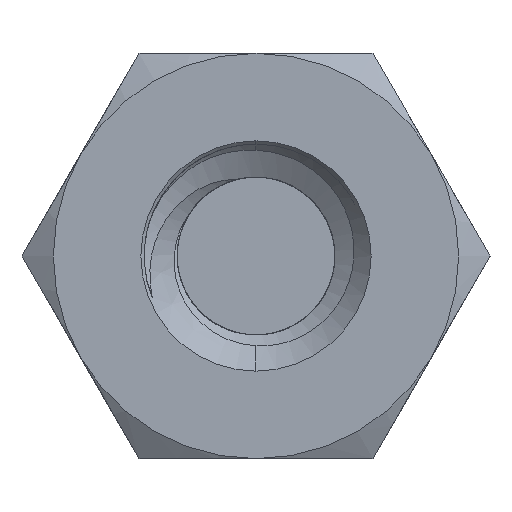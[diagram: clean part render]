
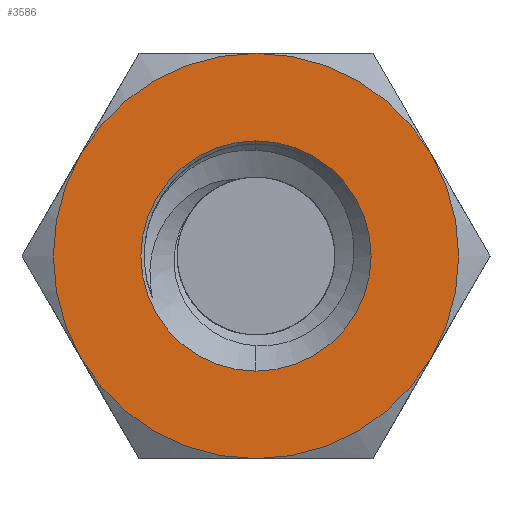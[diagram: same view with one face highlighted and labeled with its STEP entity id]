
A CAD part, left-side view. The second image highlights one B-rep face of the part: STEP entity #3586.
In plain terms, the highlighted planar face has unit normal (-1, 0, 0).
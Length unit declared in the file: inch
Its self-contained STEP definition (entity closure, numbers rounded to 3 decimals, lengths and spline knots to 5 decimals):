
#41 = CIRCLE ( 'NONE', #1318, 0.071 ) ;
#57 = CARTESIAN_POINT ( 'NONE',  ( -1.375, 0.14434, 0. ) ) ;
#78 = PLANE ( 'NONE',  #2468 ) ;
#207 = CARTESIAN_POINT ( 'NONE',  ( -1.375, 0., 0.071 ) ) ;
#248 = CARTESIAN_POINT ( 'NONE',  ( -1.375, 0.10825, 0.0625 ) ) ;
#355 = FACE_BOUND ( 'NONE', #1576, .T. ) ;
#409 = AXIS2_PLACEMENT_3D ( 'NONE', #4730, #5108, #3023 ) ;
#527 = VERTEX_POINT ( 'NONE', #3544 ) ;
#604 = EDGE_CURVE ( 'NONE', #786, #4491, #2111, .T. ) ;
#737 = ORIENTED_EDGE ( 'NONE', *, *, #3399, .F. ) ;
#758 = CARTESIAN_POINT ( 'NONE',  ( -1.375, 0., 0. ) ) ;
#786 = VERTEX_POINT ( 'NONE', #3312 ) ;
#833 = DIRECTION ( 'NONE',  ( 0., 0., -1. ) ) ;
#879 = DIRECTION ( 'NONE',  ( 1., 0., 0. ) ) ;
#1068 = DIRECTION ( 'NONE',  ( 1., 0., 0. ) ) ;
#1193 = CARTESIAN_POINT ( 'NONE',  ( -1.375, 0., 0. ) ) ;
#1239 = CARTESIAN_POINT ( 'NONE',  ( -1.375, 0., -0.125 ) ) ;
#1241 = ORIENTED_EDGE ( 'NONE', *, *, #4875, .T. ) ;
#1281 = DIRECTION ( 'NONE',  ( 1., 0., 0. ) ) ;
#1318 = AXIS2_PLACEMENT_3D ( 'NONE', #4378, #1923, #4018 ) ;
#1481 = CARTESIAN_POINT ( 'NONE',  ( -1.375, -0.10825, 0.0625 ) ) ;
#1574 = ORIENTED_EDGE ( 'NONE', *, *, #5350, .F. ) ;
#1576 = EDGE_LOOP ( 'NONE', ( #4046, #1640 ) ) ;
#1587 = DIRECTION ( 'NONE',  ( -1., 0., 0. ) ) ;
#1639 = EDGE_CURVE ( 'NONE', #1718, #527, #2988, .T. ) ;
#1640 = ORIENTED_EDGE ( 'NONE', *, *, #604, .F. ) ;
#1704 = VERTEX_POINT ( 'NONE', #248 ) ;
#1718 = VERTEX_POINT ( 'NONE', #1481 ) ;
#1725 = CIRCLE ( 'NONE', #3593, 0.125 ) ;
#1846 = VERTEX_POINT ( 'NONE', #1239 ) ;
#1890 = AXIS2_PLACEMENT_3D ( 'NONE', #758, #2497, #4498 ) ;
#1923 = DIRECTION ( 'NONE',  ( -1., 0., 0. ) ) ;
#1952 = CARTESIAN_POINT ( 'NONE',  ( -1.375, 0., 0. ) ) ;
#1969 = DIRECTION ( 'NONE',  ( 0., 0., 1. ) ) ;
#2111 = CIRCLE ( 'NONE', #2784, 0.071 ) ;
#2158 = EDGE_CURVE ( 'NONE', #527, #1846, #4746, .T. ) ;
#2324 = FACE_OUTER_BOUND ( 'NONE', #3734, .T. ) ;
#2327 = DIRECTION ( 'NONE',  ( 1., 0., 0. ) ) ;
#2414 = DIRECTION ( 'NONE',  ( 0., 0., 1. ) ) ;
#2468 = AXIS2_PLACEMENT_3D ( 'NONE', #57, #1281, #833 ) ;
#2497 = DIRECTION ( 'NONE',  ( 1., 0., 0. ) ) ;
#2534 = CARTESIAN_POINT ( 'NONE',  ( -1.375, 0., 0. ) ) ;
#2545 = EDGE_CURVE ( 'NONE', #4491, #786, #41, .T. ) ;
#2568 = ORIENTED_EDGE ( 'NONE', *, *, #1639, .F. ) ;
#2784 = AXIS2_PLACEMENT_3D ( 'NONE', #4090, #1587, #1969 ) ;
#2807 = CARTESIAN_POINT ( 'NONE',  ( -1.375, 0., 0.125 ) ) ;
#2812 = CARTESIAN_POINT ( 'NONE',  ( -1.375, 0., 0. ) ) ;
#2814 = ORIENTED_EDGE ( 'NONE', *, *, #3767, .F. ) ;
#2988 = CIRCLE ( 'NONE', #4739, 0.125 ) ;
#3023 = DIRECTION ( 'NONE',  ( 0., 0., -1. ) ) ;
#3252 = DIRECTION ( 'NONE',  ( -1., 0., 0. ) ) ;
#3312 = CARTESIAN_POINT ( 'NONE',  ( -1.375, 0., -0.071 ) ) ;
#3399 = EDGE_CURVE ( 'NONE', #4908, #1718, #3750, .T. ) ;
#3544 = CARTESIAN_POINT ( 'NONE',  ( -1.375, -0.10825, -0.0625 ) ) ;
#3586 = ADVANCED_FACE ( 'NONE', ( #355, #2324 ), #78, .F. ) ;
#3593 = AXIS2_PLACEMENT_3D ( 'NONE', #1193, #3252, #2414 ) ;
#3594 = DIRECTION ( 'NONE',  ( 0., 0., -1. ) ) ;
#3675 = AXIS2_PLACEMENT_3D ( 'NONE', #2534, #879, #4214 ) ;
#3716 = VERTEX_POINT ( 'NONE', #4301 ) ;
#3734 = EDGE_LOOP ( 'NONE', ( #2814, #4658, #2568, #737, #1241, #1574 ) ) ;
#3750 = CIRCLE ( 'NONE', #5275, 0.125 ) ;
#3767 = EDGE_CURVE ( 'NONE', #1846, #3716, #4741, .T. ) ;
#4018 = DIRECTION ( 'NONE',  ( 0., 0., 1. ) ) ;
#4046 = ORIENTED_EDGE ( 'NONE', *, *, #2545, .F. ) ;
#4049 = DIRECTION ( 'NONE',  ( 0., 0., -1. ) ) ;
#4090 = CARTESIAN_POINT ( 'NONE',  ( -1.375, 0., 0. ) ) ;
#4214 = DIRECTION ( 'NONE',  ( 0., 0., -1. ) ) ;
#4269 = CIRCLE ( 'NONE', #1890, 0.125 ) ;
#4301 = CARTESIAN_POINT ( 'NONE',  ( -1.375, 0.10825, -0.0625 ) ) ;
#4378 = CARTESIAN_POINT ( 'NONE',  ( -1.375, 0., 0. ) ) ;
#4491 = VERTEX_POINT ( 'NONE', #207 ) ;
#4498 = DIRECTION ( 'NONE',  ( 0., 0., -1. ) ) ;
#4658 = ORIENTED_EDGE ( 'NONE', *, *, #2158, .F. ) ;
#4730 = CARTESIAN_POINT ( 'NONE',  ( -1.375, 0., 0. ) ) ;
#4739 = AXIS2_PLACEMENT_3D ( 'NONE', #2812, #1068, #4049 ) ;
#4741 = CIRCLE ( 'NONE', #409, 0.125 ) ;
#4746 = CIRCLE ( 'NONE', #3675, 0.125 ) ;
#4875 = EDGE_CURVE ( 'NONE', #4908, #1704, #1725, .T. ) ;
#4908 = VERTEX_POINT ( 'NONE', #2807 ) ;
#5108 = DIRECTION ( 'NONE',  ( 1., 0., 0. ) ) ;
#5275 = AXIS2_PLACEMENT_3D ( 'NONE', #1952, #2327, #3594 ) ;
#5350 = EDGE_CURVE ( 'NONE', #3716, #1704, #4269, .T. ) ;
